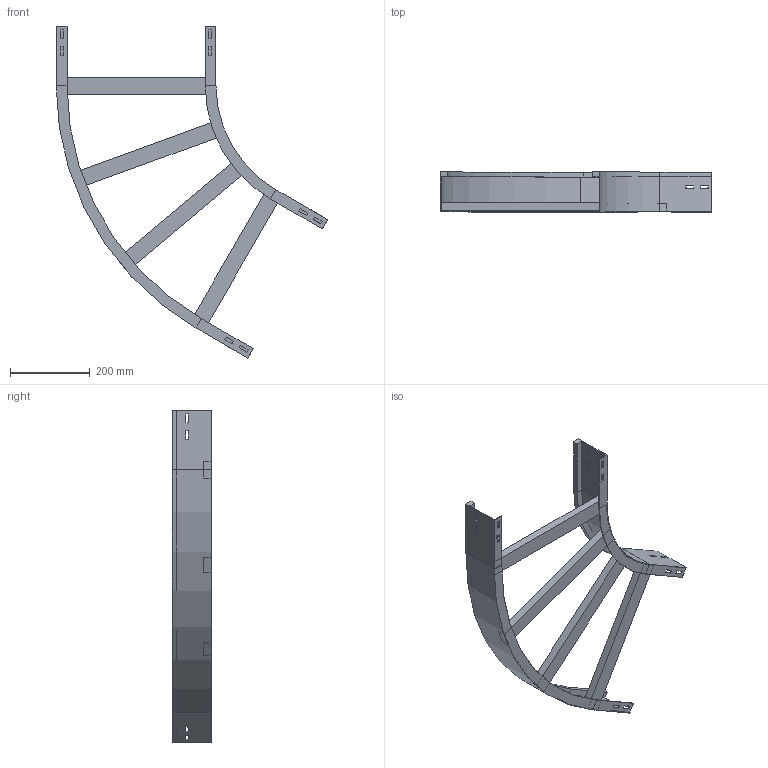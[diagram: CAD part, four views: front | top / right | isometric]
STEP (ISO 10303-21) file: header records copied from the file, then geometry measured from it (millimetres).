
FILE_DESCRIPTION (( 'STEP AP214' ), '1' );
FILE_NAME ('A2_13B3D400.step', '2025-02-21T15:17:45', ( '' ), ( '' ), 'SwSTEP 2.0', 'SolidWorks 2023', '' );
FILE_SCHEMA (( 'AUTOMOTIVE_DESIGN' ));
Length unit declared in the file: millimetre
Products named in the file (4): A2_13B3D400; A2_LONGH.ESTERNO 60°_H100_R300+400; A2_LONGH.INTERNO 60°_H100_R300; TRAVERSINO_400
Assembly tree (6 placements, depth 2):
  A2_13B3D400
    A2_LONGH.INTERNO 60°_H100_R300
    A2_LONGH.ESTERNO 60°_H100_R300+400
    TRAVERSINO_400  x4
Bounding box: 679.9 x 100 x 831.22 mm (x, y, z)
Volume: 2006173.3 mm3; surface area: 667938.5 mm2
Topology: 6 solids, 6 shells, 140 faces, 352 edges, 224 vertices
Faces by surface type: plane 132, cylinder 8
Entity records: 3829 total; most frequent: CARTESIAN_POINT 647, ORIENTED_EDGE 632, DIRECTION 594, EDGE_CURVE 316, LINE 300, VECTOR 300, VERTEX_POINT 200, EDGE_LOOP 154
